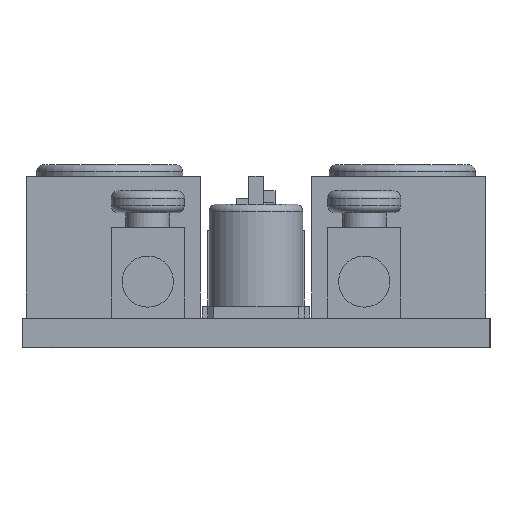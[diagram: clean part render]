
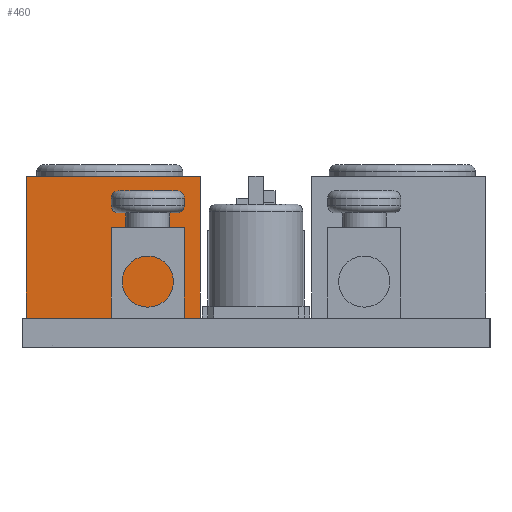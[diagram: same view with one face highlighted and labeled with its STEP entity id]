
A CAD part, left-side view. The second image highlights one B-rep face of the part: STEP entity #460.
In plain terms, the highlighted planar face has unit normal (-1, 0, 0).
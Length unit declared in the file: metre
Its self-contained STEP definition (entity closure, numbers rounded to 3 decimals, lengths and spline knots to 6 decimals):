
#460 = ADVANCED_FACE( '', ( #1374 ), #1375, .F. );
#1374 = FACE_OUTER_BOUND( '', #2317, .T. );
#1375 = PLANE( '', #2318 );
#2317 = EDGE_LOOP( '', ( #5356, #5357, #5358, #5359 ) );
#2318 = AXIS2_PLACEMENT_3D( '', #5360, #5361, #5362 );
#5356 = ORIENTED_EDGE( '', *, *, #5566, .T. );
#5357 = ORIENTED_EDGE( '', *, *, #6457, .F. );
#5358 = ORIENTED_EDGE( '', *, *, #6452, .F. );
#5359 = ORIENTED_EDGE( '', *, *, #6458, .T. );
#5360 = CARTESIAN_POINT( '', ( -0.019, 0.0157, 0.0117 ) );
#5361 = DIRECTION( '', ( 1., 0., 0. ) );
#5362 = DIRECTION( '', ( 0., 0., -1. ) );
#5566 = EDGE_CURVE( '', #6561, #6562, #6563, .T. );
#6452 = EDGE_CURVE( '', #8051, #8053, #8054, .T. );
#6457 = EDGE_CURVE( '', #8053, #6562, #8060, .T. );
#6458 = EDGE_CURVE( '', #8051, #6561, #8061, .T. );
#6561 = VERTEX_POINT( '', #8213 );
#6562 = VERTEX_POINT( '', #8214 );
#6563 = LINE( '', #8215, #8216 );
#8051 = VERTEX_POINT( '', #10544 );
#8053 = VERTEX_POINT( '', #10547 );
#8054 = LINE( '', #10548, #10549 );
#8060 = LINE( '', #10559, #10560 );
#8061 = LINE( '', #10561, #10562 );
#8213 = CARTESIAN_POINT( '', ( -0.019, 0.0157, 0.002 ) );
#8214 = CARTESIAN_POINT( '', ( -0.019, 0.0038, 0.002 ) );
#8215 = CARTESIAN_POINT( '', ( -0.019, 0.0157, 0.002 ) );
#8216 = VECTOR( '', #10683, 1. );
#10544 = CARTESIAN_POINT( '', ( -0.019, 0.0157, 0.0117 ) );
#10547 = CARTESIAN_POINT( '', ( -0.019, 0.0038, 0.0117 ) );
#10548 = CARTESIAN_POINT( '', ( -0.019, 0.0157, 0.0117 ) );
#10549 = VECTOR( '', #11657, 1. );
#10559 = CARTESIAN_POINT( '', ( -0.019, 0.0038, 0.0117 ) );
#10560 = VECTOR( '', #11662, 1. );
#10561 = CARTESIAN_POINT( '', ( -0.019, 0.0157, 0.0117 ) );
#10562 = VECTOR( '', #11663, 1. );
#10683 = DIRECTION( '', ( 0., -1., 0. ) );
#11657 = DIRECTION( '', ( 0., -1., 0. ) );
#11662 = DIRECTION( '', ( 0., 0., -1. ) );
#11663 = DIRECTION( '', ( 0., 0., -1. ) );
